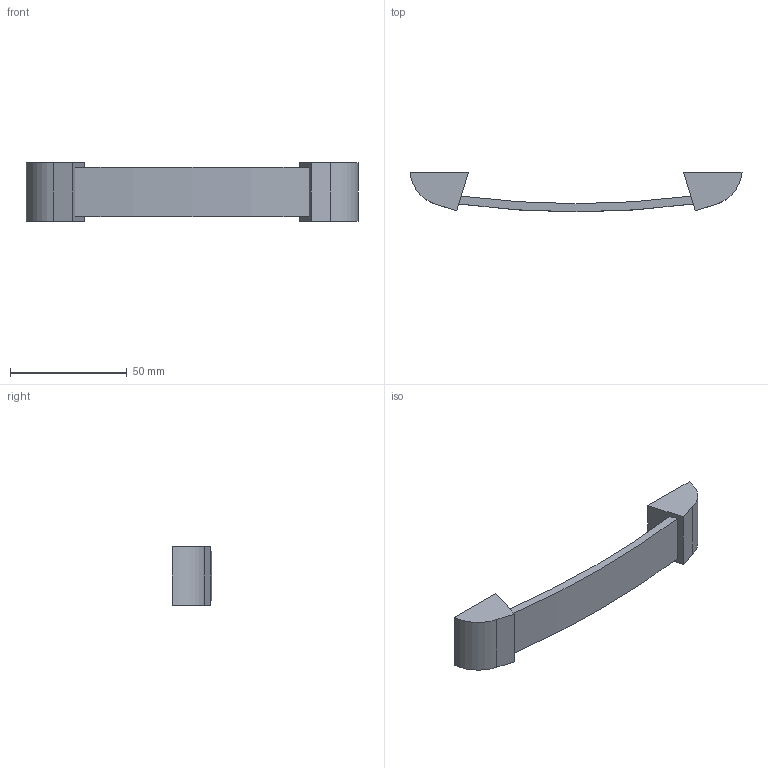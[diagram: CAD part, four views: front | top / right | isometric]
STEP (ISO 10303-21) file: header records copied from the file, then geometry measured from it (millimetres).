
FILE_DESCRIPTION( ( '' ), '1' );
FILE_NAME( 'C:/Documents and Settings/Sachin/Desktop/Sheet 10_1/stp/9113454.stp', '2013-10-22T06:15:25', ( '' ), ( '' ), ' ', ' ', ' ' );
FILE_SCHEMA( ( 'CONFIG_CONTROL_DESIGN' ) );
Length unit declared in the file: millimetre
Products named in the file (1): 1
Bounding box: 142 x 17 x 25 mm (x, y, z)
Volume: 21330.8 mm3; surface area: 9584 mm2
Topology: 1 solids, 1 shells, 22 faces, 48 edges, 32 vertices
Faces by surface type: plane 14, cylinder 8
Entity records: 652 total; most frequent: DIRECTION 110, CARTESIAN_POINT 103, ORIENTED_EDGE 96, EDGE_CURVE 48, AXIS2_PLACEMENT_3D 39, VERTEX_POINT 32, LINE 32, VECTOR 32
